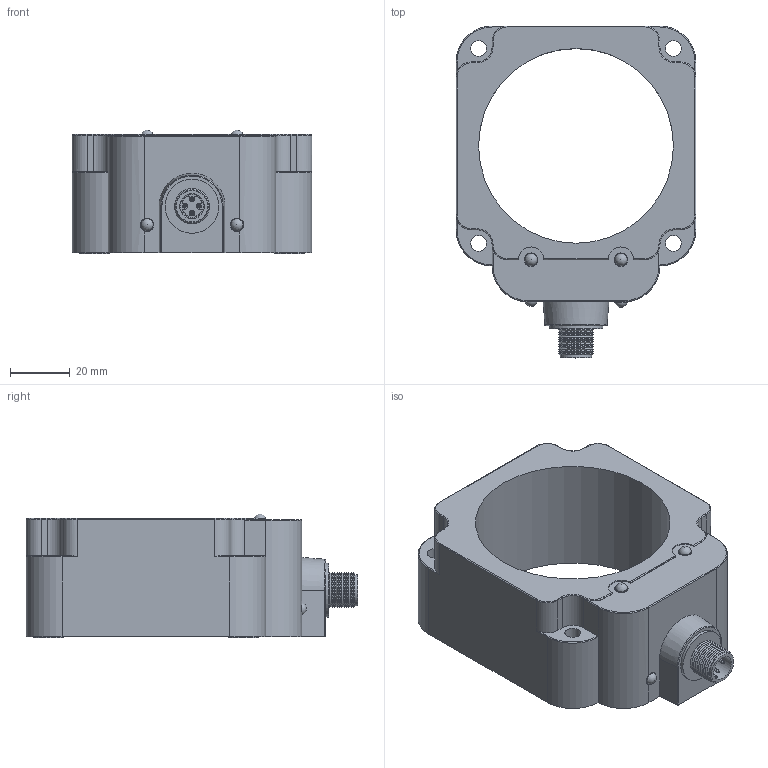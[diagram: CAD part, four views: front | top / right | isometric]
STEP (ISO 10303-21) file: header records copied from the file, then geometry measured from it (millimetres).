
FILE_DESCRIPTION((''),'2;1');
FILE_NAME('C:\TurckConnectExport\Q80-H1-R65.stp','2006-09-01T10:32:03',('IKOROL'),(''),'Autodesk Inventor 11','Autodesk Inventor 11','');
FILE_SCHEMA(('AUTOMOTIVE_DESIGN { 1 0 10303 214 1 1 1 1 }'));
Length unit declared in the file: millimetre
Products named in the file (1): Part3
Bounding box: 80 x 110.76 x 41.31 mm (x, y, z)
Volume: 138001.4 mm3; surface area: 33638.7 mm2
Topology: 7 solids, 7 shells, 264 faces, 653 edges, 411 vertices
Faces by surface type: cylinder 119, plane 78, cone 34, torus 23, bspline 6, sphere 4
Full cylindrical faces by diameter (mm): 0.8 x1, 1 x8, 1.3 x4, 1.8 x4, 4.062 x4, 4.5 x4, 5.3 x4, 8 x1, 8.3 x1, 9 x1, 9.4 x1, 9.9 x5, 10 x1, 10.5 x1, 10.982 x1, 18 x1, 65 x1
Entity records: 8324 total; most frequent: CARTESIAN_POINT 2408, DIRECTION 1298, ORIENTED_EDGE 1078, AXIS2_PLACEMENT_3D 551, EDGE_CURVE 539, VERTEX_POINT 385, EDGE_LOOP 380, CIRCLE 292
